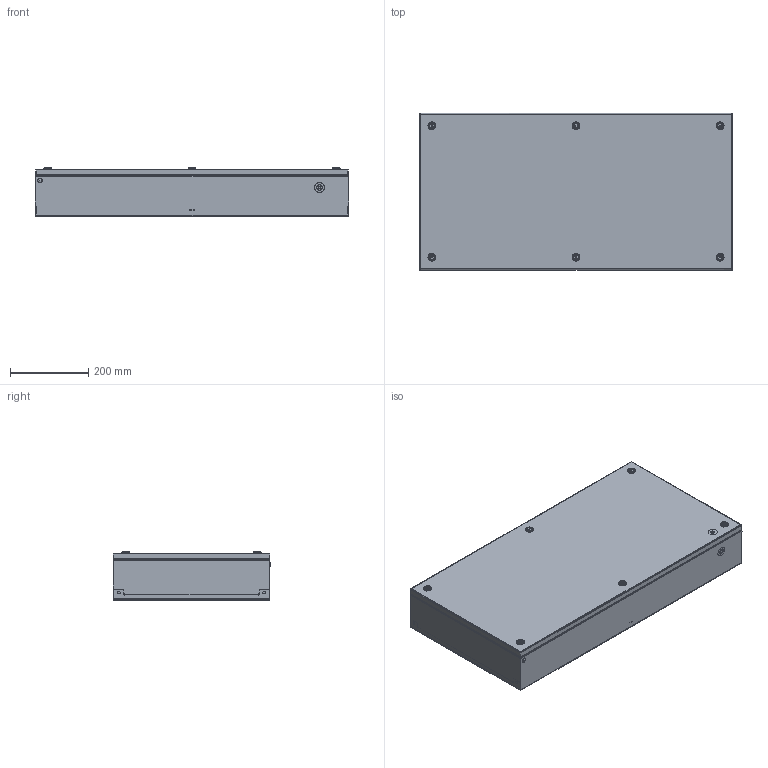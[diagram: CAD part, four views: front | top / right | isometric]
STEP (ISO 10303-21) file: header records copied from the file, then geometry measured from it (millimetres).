
FILE_DESCRIPTION (( 'STEP AP214' ), '1' );
FILE_NAME ('BCS 40.80.12 Êîðîáêà.STEP', '2023-03-14T05:13:50', ( '' ), ( '' ), 'SwSTEP 2.0', 'SolidWorks 2019', '' );
FILE_SCHEMA (( 'AUTOMOTIVE_DESIGN' ));
Length unit declared in the file: millimetre
Products named in the file (1): BCS 40.80.12 Êîðîáêà
Bounding box: 800 x 402.5 x 123 mm (x, y, z)
Volume: 1831607.5 mm3; surface area: 2682231.2 mm2
Topology: 51 solids, 51 shells, 2932 faces, 7419 edges, 4694 vertices
Faces by surface type: plane 1611, cylinder 912, cone 178, bspline 138, torus 68, sphere 25
Entity records: 137446 total; most frequent: CARTESIAN_POINT 34887, ORIENTED_EDGE 14784, DIRECTION 13878, EDGE_CURVE 7392, VERTEX_POINT 4692, AXIS2_PLACEMENT_3D 4687, VECTOR 4504, LINE 4504
